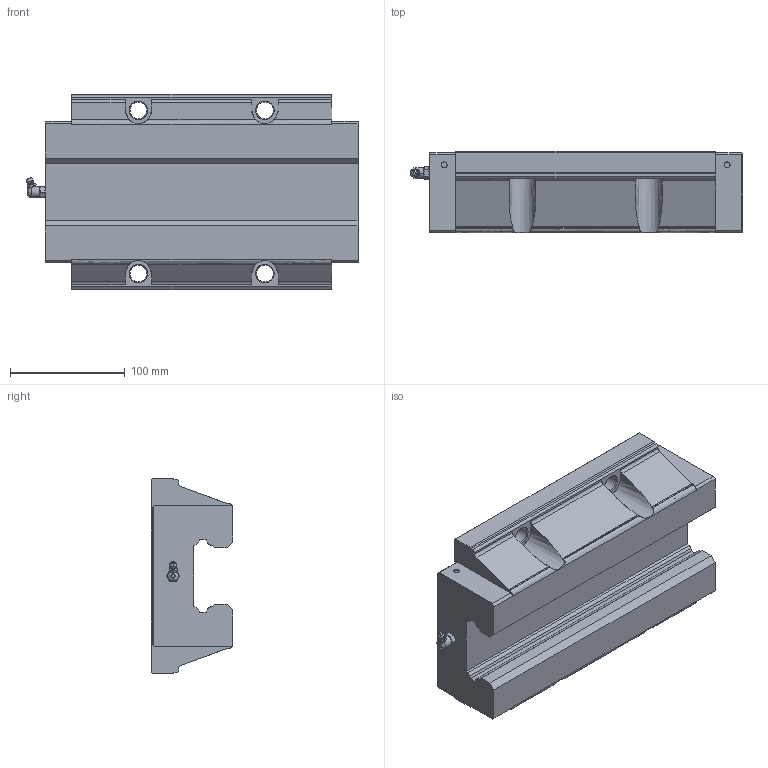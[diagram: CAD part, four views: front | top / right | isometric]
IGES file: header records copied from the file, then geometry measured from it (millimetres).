
Start section: SolidWorks IGES file using analytic representation for surfaces
Global section: file name: C:\Users\EOS\Desktop\output_#task\SHS65LC.igs; native system: SolidWorks 2017; preprocessor: SolidWorks 2017; author: EOS; date: 170918.091444; units: millimetre
Bounding box: 288.7 x 71 x 170 mm (x, y, z)
Surface area: 165399.7 mm2 (no closed solid volume)
Topology: 0 solids, 0 shells, 200 faces, 2664 edges, 2657 vertices
Faces by surface type: bspline 114, revolution 86
